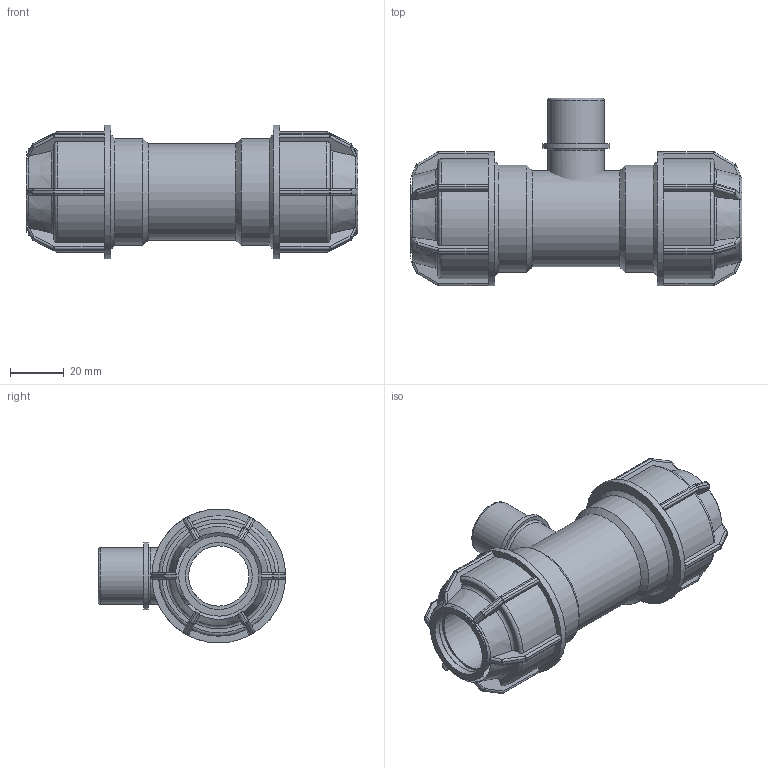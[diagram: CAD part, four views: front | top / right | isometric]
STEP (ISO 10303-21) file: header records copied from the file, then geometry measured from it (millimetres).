
FILE_DESCRIPTION(/* description */ ('PLASSON L.14 TEE MALE ADAPTOR (SILVER) 25-1/2"-25'),/* implementation_level */ '2;1');
FILE_NAME(/* name */ 'C:\Dropbox\KIMPROJECTS-Inventor\99-16-3568-Processing\Silver+MF ISRAEL\148400\148400025005.ipt.stp',/* time_stamp */ '2018-04-09T13:05:21+03:00',/* author */ ('KIM'),/* organization */ (''),/* preprocessor_version */ 'ST-DEVELOPER v15.6',/* originating_system */ 'Autodesk Inventor 2015',/* authorisation */ '');
FILE_SCHEMA (('AUTOMOTIVE_DESIGN { 1 0 10303 214 3 1 1 }'));
Length unit declared in the file: millimetre
Products named in the file (1): 148400025005
Bounding box: 124 x 70 x 50 mm (x, y, z)
Volume: 106161.4 mm3; surface area: 35446.6 mm2
Topology: 2 solids, 2 shells, 416 faces, 981 edges, 565 vertices
Faces by surface type: plane 196, cylinder 124, sphere 48, torus 30, cone 18
Full cylindrical faces by diameter (mm): 15 x2, 20.955 x2, 22.5 x1, 25 x4, 25.146 x1, 36 x1, 40 x2, 50 x2
Entity records: 12087 total; most frequent: CARTESIAN_POINT 3178, DIRECTION 1872, ORIENTED_EDGE 1824, EDGE_CURVE 912, AXIS2_PLACEMENT_3D 756, VERTEX_POINT 540, EDGE_LOOP 452, FACE_OUTER_BOUND 411
